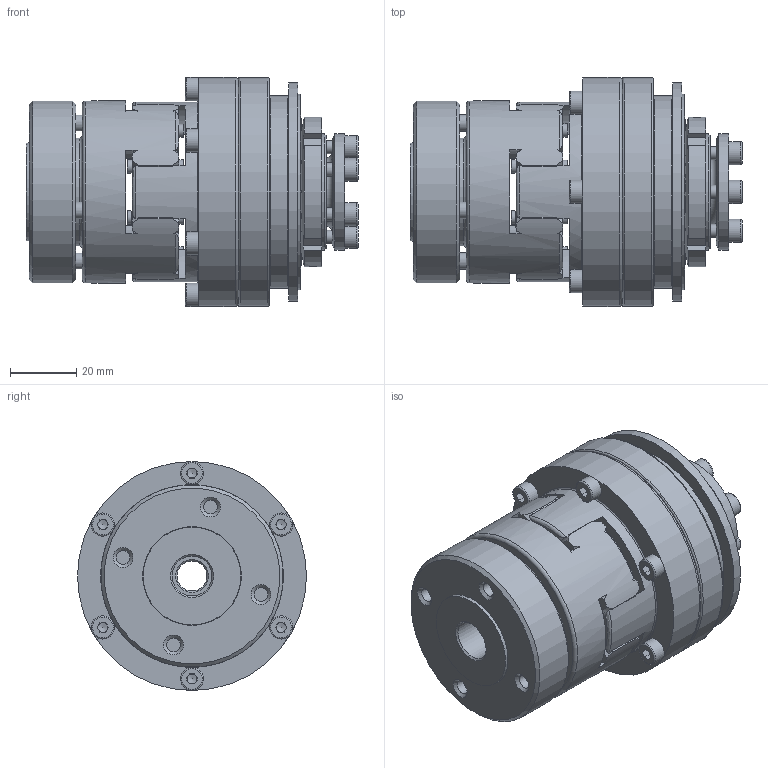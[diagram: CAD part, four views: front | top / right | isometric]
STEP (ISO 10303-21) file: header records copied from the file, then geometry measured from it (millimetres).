
FILE_DESCRIPTION( ( 'Unknown' ), '1' );
FILE_NAME( 'F:/JAKOB-STEP+IGES-Dateien/STEP-Dateien/SKY-ES/SKY-ES 15.stp', 'Unknown', ( 'Unknown' ), ( 'Unknown' ), 'PSStep 10.1', 'Unknown', ' ' );
FILE_SCHEMA( ( 'AUTOMOTIVE_DESIGN { 1 0 10303 214 1 1 1 1 }' ) );
Length unit declared in the file: millimetre
Products named in the file (1): kt101602
Bounding box: 100 x 69 x 69 mm (x, y, z)
Volume: 192328 mm3; surface area: 73752.3 mm2
Topology: 1 solids, 16 shells, 942 faces, 2516 edges, 1624 vertices
Faces by surface type: plane 466, cylinder 203, cone 116, torus 85, extrusion 60, sphere 12
Full cylindrical faces by diameter (mm): 2 x2, 3.3 x11, 3.4 x6, 4 x20, 4.2 x8, 4.3 x6, 4.6 x6, 5 x4, 5.4 x4, 7 x12, 8.5 x4, 9 x5, 12 x1, 12.5 x1, 18 x1, 20.5 x1, 27 x2, 28.6 x1, 29.8 x1, 30 x3, 32.5 x1, 35 x4, 35.2 x1, 36 x1, 38.2 x2, 38.893 x1, 39.293 x1, 42 x1, 42.267 x1, 43 x1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
Entity records: 36763 total; most frequent: CARTESIAN_POINT 7860, DIRECTION 4299, ORIENTED_EDGE 4144, EDGE_CURVE 2072, AXIS2_PLACEMENT_3D 1677, VERTEX_POINT 1458, EDGE_LOOP 1334, FACE_OUTER_BOUND 1104
